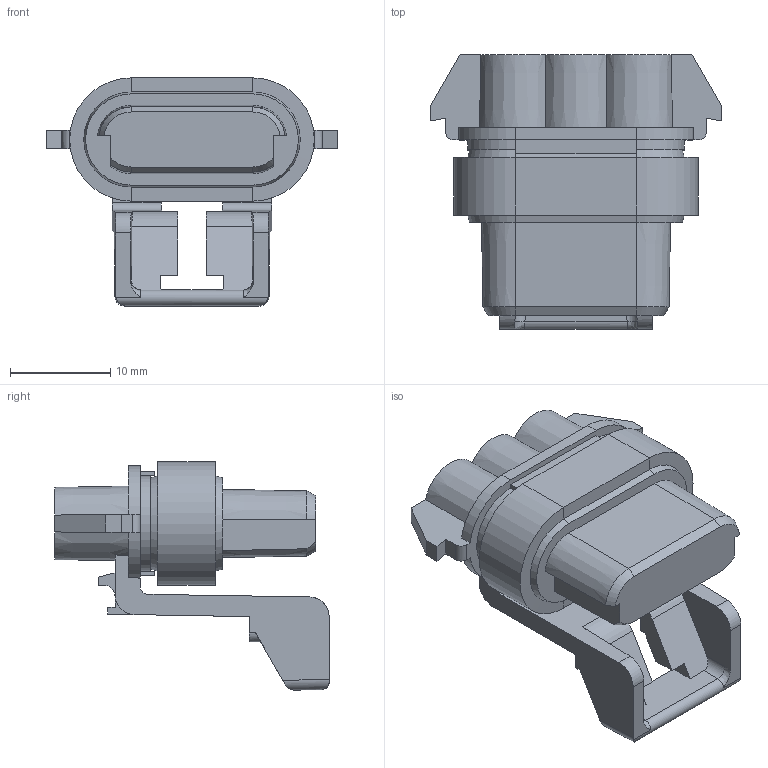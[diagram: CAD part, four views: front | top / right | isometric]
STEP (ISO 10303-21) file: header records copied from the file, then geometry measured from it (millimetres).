
FILE_DESCRIPTION(/* description */ (''),/* implementation_level */ '2;1');
FILE_NAME(/* name */ '12110293-ENV10_04-CONN.stp',/* time_stamp */ '2021-09-07T13:24:51+06:00',/* author */ (''),/* organization */ (''),/* preprocessor_version */ 'ST-DEVELOPER v16',/* originating_system */ 'SIEMENS PLM Software NX 11.0',/* authorisation */ '');
FILE_SCHEMA (('AP203_CONFIGURATION_CONTROLLED_3D_DESIGN_OF_MECHANICAL_PARTS_AND_ASSEMBLIES_MIM_LF { 1 0 10303 403 2 1 2}'));
Length unit declared in the file: millimetre
Products named in the file (1): hjcv2F283C201ywj
Bounding box: 29 x 27.35 x 22.75 mm (x, y, z)
Volume: 5022.7 mm3; surface area: 3159.8 mm2
Topology: 1 solids, 1 shells, 154 faces, 427 edges, 276 vertices
Faces by surface type: plane 102, cylinder 28, cone 22, bspline 2
Entity records: 5087 total; most frequent: CARTESIAN_POINT 1012, ORIENTED_EDGE 854, DIRECTION 809, EDGE_CURVE 427, LINE 303, VECTOR 303, VERTEX_POINT 276, AXIS2_PLACEMENT_3D 253
